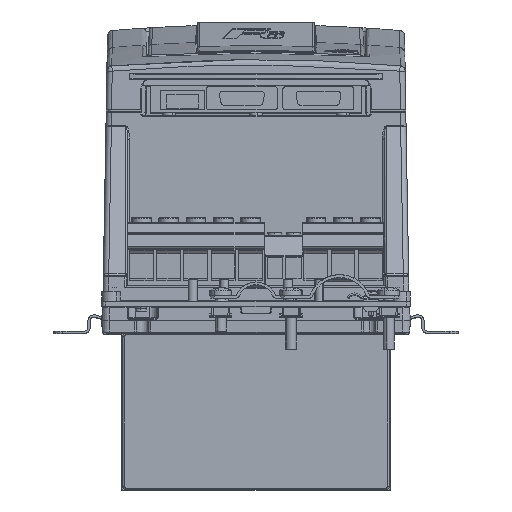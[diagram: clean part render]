
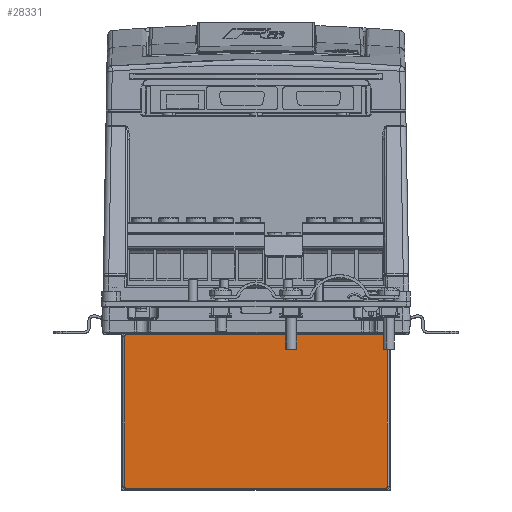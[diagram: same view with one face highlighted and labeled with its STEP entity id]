
A CAD part, top view. The second image highlights one B-rep face of the part: STEP entity #28331.
In plain terms, the highlighted planar face has unit normal (0, 0, 1).
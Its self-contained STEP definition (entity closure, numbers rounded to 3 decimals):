
#1521 = CARTESIAN_POINT ( 'NONE',  ( 0., -88., 60. ) ) ;
#3760 = VERTEX_POINT ( 'NONE', #72026 ) ;
#5855 = EDGE_CURVE ( 'NONE', #115577, #72606, #64415, .T. ) ;
#6063 = AXIS2_PLACEMENT_3D ( 'NONE', #51511, #42086, #40836 ) ;
#7376 = VECTOR ( 'NONE', #58202, 1000. ) ;
#10823 = EDGE_CURVE ( 'NONE', #39329, #44904, #30276, .T. ) ;
#12830 = CARTESIAN_POINT ( 'NONE',  ( -71.5, -3.5, 60. ) ) ;
#17938 = EDGE_CURVE ( 'NONE', #44904, #87733, #40631, .T. ) ;
#18806 = DIRECTION ( 'NONE',  ( 0., 0., 1. ) ) ;
#20313 = CIRCLE ( 'NONE', #80701, 1. ) ;
#25043 = VECTOR ( 'NONE', #104150, 1000. ) ;
#25914 = CARTESIAN_POINT ( 'NONE',  ( 71.5, -87., 60. ) ) ;
#27279 = CARTESIAN_POINT ( 'NONE',  ( 0., -45.75, 60. ) ) ;
#28331 = ADVANCED_FACE ( 'NONE', ( #46791 ), #104131, .T. ) ;
#30276 = CIRCLE ( 'NONE', #46357, 1. ) ;
#30808 = VECTOR ( 'NONE', #32425, 1000. ) ;
#32425 = DIRECTION ( 'NONE',  ( 1., 0., 0. ) ) ;
#34923 = EDGE_CURVE ( 'NONE', #67201, #71922, #20313, .T. ) ;
#35576 = ORIENTED_EDGE ( 'NONE', *, *, #10823, .T. ) ;
#37197 = DIRECTION ( 'NONE',  ( 0., 0., 1. ) ) ;
#38679 = CARTESIAN_POINT ( 'NONE',  ( 71.5, -88., 60. ) ) ;
#39329 = VERTEX_POINT ( 'NONE', #96467 ) ;
#39894 = EDGE_CURVE ( 'NONE', #72606, #67201, #50580, .T. ) ;
#40631 = LINE ( 'NONE', #1521, #30808 ) ;
#40836 = DIRECTION ( 'NONE',  ( 1., 0., 0. ) ) ;
#42086 = DIRECTION ( 'NONE',  ( 0., 0., 1. ) ) ;
#44904 = VERTEX_POINT ( 'NONE', #121220 ) ;
#45796 = CARTESIAN_POINT ( 'NONE',  ( -71.5, -4.5, 60. ) ) ;
#46163 = CARTESIAN_POINT ( 'NONE',  ( 72.5, -45.75, 60. ) ) ;
#46357 = AXIS2_PLACEMENT_3D ( 'NONE', #59669, #18806, #77376 ) ;
#46791 = FACE_OUTER_BOUND ( 'NONE', #48422, .T. ) ;
#47705 = DIRECTION ( 'NONE',  ( 0., -1., 0. ) ) ;
#47842 = CARTESIAN_POINT ( 'NONE',  ( 71.5, -3.5, 60. ) ) ;
#48422 = EDGE_LOOP ( 'NONE', ( #77861, #54773, #105222, #97668, #62491, #35576, #87092, #83237 ) ) ;
#50580 = LINE ( 'NONE', #89046, #7376 ) ;
#51511 = CARTESIAN_POINT ( 'NONE',  ( 71.5, -4.5, 60. ) ) ;
#54773 = ORIENTED_EDGE ( 'NONE', *, *, #5855, .T. ) ;
#55321 = CARTESIAN_POINT ( 'NONE',  ( -72.5, -45.75, 60. ) ) ;
#56260 = DIRECTION ( 'NONE',  ( 1., 0., 0. ) ) ;
#56510 = DIRECTION ( 'NONE',  ( 1., 0., 0. ) ) ;
#57182 = LINE ( 'NONE', #55321, #65217 ) ;
#57910 = CARTESIAN_POINT ( 'NONE',  ( -72.5, -4.5, 60. ) ) ;
#58202 = DIRECTION ( 'NONE',  ( -1., 0., 0. ) ) ;
#59669 = CARTESIAN_POINT ( 'NONE',  ( -71.5, -87., 60. ) ) ;
#61238 = AXIS2_PLACEMENT_3D ( 'NONE', #25914, #37197, #114062 ) ;
#62491 = ORIENTED_EDGE ( 'NONE', *, *, #91122, .T. ) ;
#64415 = CIRCLE ( 'NONE', #6063, 1. ) ;
#65217 = VECTOR ( 'NONE', #47705, 1000. ) ;
#65677 = DIRECTION ( 'NONE',  ( 0., 0., 1. ) ) ;
#67201 = VERTEX_POINT ( 'NONE', #12830 ) ;
#71922 = VERTEX_POINT ( 'NONE', #57910 ) ;
#72026 = CARTESIAN_POINT ( 'NONE',  ( 72.5, -87., 60. ) ) ;
#72606 = VERTEX_POINT ( 'NONE', #47842 ) ;
#77376 = DIRECTION ( 'NONE',  ( 1., 0., 0. ) ) ;
#77861 = ORIENTED_EDGE ( 'NONE', *, *, #117623, .T. ) ;
#80701 = AXIS2_PLACEMENT_3D ( 'NONE', #45796, #122658, #56510 ) ;
#83237 = ORIENTED_EDGE ( 'NONE', *, *, #117930, .T. ) ;
#85273 = LINE ( 'NONE', #46163, #25043 ) ;
#87092 = ORIENTED_EDGE ( 'NONE', *, *, #17938, .T. ) ;
#87733 = VERTEX_POINT ( 'NONE', #38679 ) ;
#89046 = CARTESIAN_POINT ( 'NONE',  ( 0., -3.5, 60. ) ) ;
#89401 = CIRCLE ( 'NONE', #61238, 1. ) ;
#91122 = EDGE_CURVE ( 'NONE', #71922, #39329, #57182, .T. ) ;
#96467 = CARTESIAN_POINT ( 'NONE',  ( -72.5, -87., 60. ) ) ;
#97668 = ORIENTED_EDGE ( 'NONE', *, *, #34923, .T. ) ;
#98035 = AXIS2_PLACEMENT_3D ( 'NONE', #27279, #65677, #56260 ) ;
#104131 = PLANE ( 'NONE',  #98035 ) ;
#104150 = DIRECTION ( 'NONE',  ( 0., 1., 0. ) ) ;
#105222 = ORIENTED_EDGE ( 'NONE', *, *, #39894, .T. ) ;
#114062 = DIRECTION ( 'NONE',  ( 1., 0., 0. ) ) ;
#115577 = VERTEX_POINT ( 'NONE', #123435 ) ;
#117623 = EDGE_CURVE ( 'NONE', #3760, #115577, #85273, .T. ) ;
#117930 = EDGE_CURVE ( 'NONE', #87733, #3760, #89401, .T. ) ;
#121220 = CARTESIAN_POINT ( 'NONE',  ( -71.5, -88., 60. ) ) ;
#122658 = DIRECTION ( 'NONE',  ( 0., 0., 1. ) ) ;
#123435 = CARTESIAN_POINT ( 'NONE',  ( 72.5, -4.5, 60. ) ) ;
